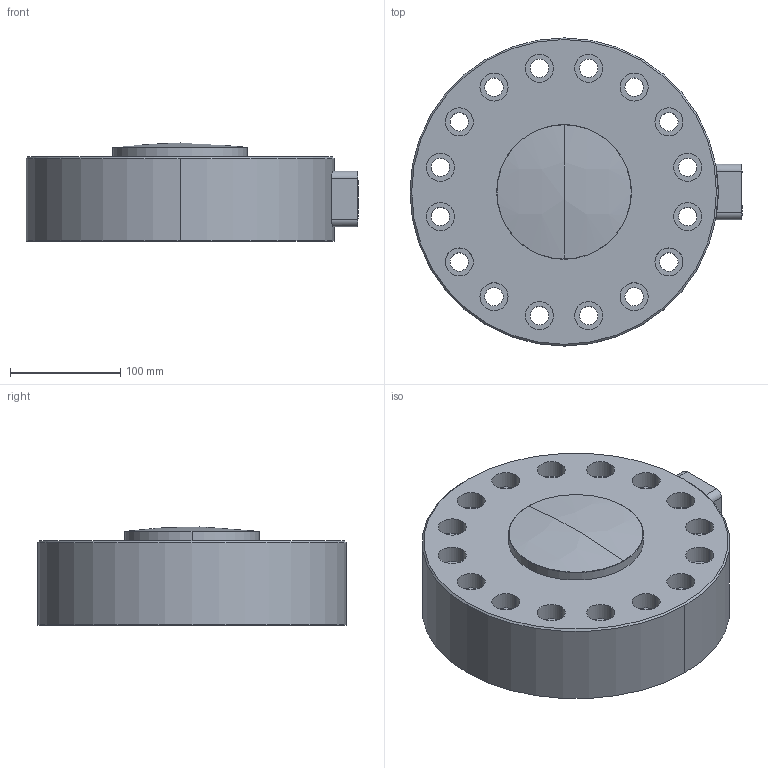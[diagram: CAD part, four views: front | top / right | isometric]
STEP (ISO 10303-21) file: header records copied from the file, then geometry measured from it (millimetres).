
FILE_DESCRIPTION (( 'STEP AP203' ), '1' );
FILE_NAME ('Interface 1243-1350KN thru -1800KN.STEP', '2011-06-07T14:45:12', ( ' ' ), ( '' ), 'SwSTEP 2.0', 'SolidWorks 2002349', '' );
FILE_SCHEMA (( 'CONFIG_CONTROL_DESIGN' ));
Length unit declared in the file: inch
Products named in the file (1): Interface 1243-1350KN thru -1800KN
Bounding box: 300.94 x 279.3 x 88.85 mm (x, y, z)
Volume: 4456908.4 mm3; surface area: 271419.2 mm2
Topology: 1 solids, 1 shells, 370 faces, 892 edges, 578 vertices
Faces by surface type: cylinder 199, plane 124, bspline 28, cone 16, sphere 3
Entity records: 12624 total; most frequent: CARTESIAN_POINT 3972, ORIENTED_EDGE 1784, DIRECTION 1770, EDGE_CURVE 892, AXIS2_PLACEMENT_3D 720, VERTEX_POINT 578, EDGE_LOOP 474, CIRCLE 377
